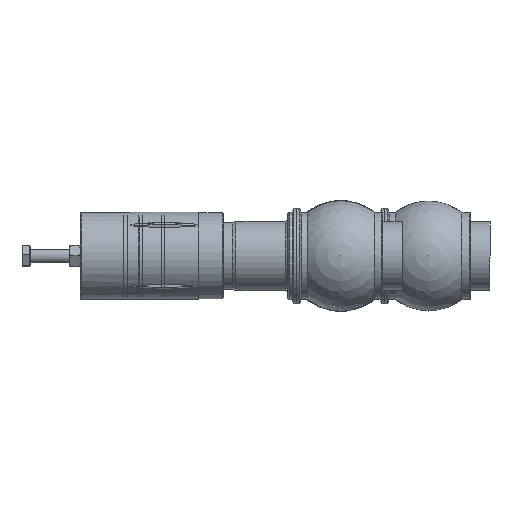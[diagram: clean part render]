
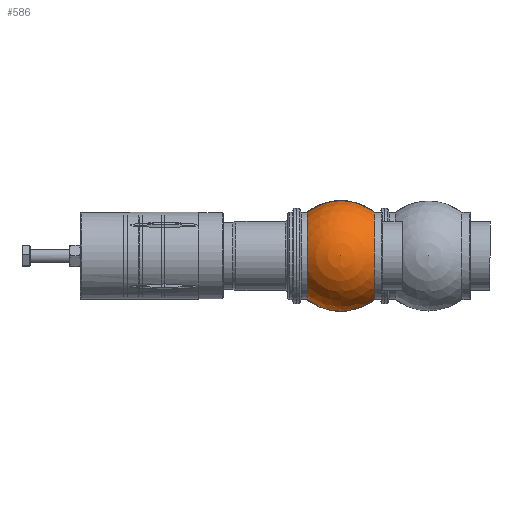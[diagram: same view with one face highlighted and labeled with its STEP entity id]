
A CAD part, left-side view. The second image highlights one B-rep face of the part: STEP entity #586.
In plain terms, the highlighted spherical face has radius 56.5 mm.
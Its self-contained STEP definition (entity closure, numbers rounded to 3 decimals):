
#465=CARTESIAN_POINT('',(2.321,28.835,44.94));
#466=VERTEX_POINT('',#465);
#467=CARTESIAN_POINT('',(-2.321,28.835,44.94));
#468=VERTEX_POINT('',#467);
#478=CARTESIAN_POINT('',(-2.321,28.835,44.94));
#479=CARTESIAN_POINT('',(-3.574,28.927,44.945));
#480=CARTESIAN_POINT('',(-4.841,29.095,44.955));
#481=CARTESIAN_POINT('',(-8.154,29.744,44.991));
#482=CARTESIAN_POINT('',(-10.193,30.356,45.025));
#483=CARTESIAN_POINT('',(-14.103,31.976,45.114));
#484=CARTESIAN_POINT('',(-15.977,32.984,45.17));
#485=CARTESIAN_POINT('',(-19.444,35.313,45.299));
#486=CARTESIAN_POINT('',(-21.035,36.635,45.372));
#487=CARTESIAN_POINT('',(-23.855,39.453,45.527));
#488=CARTESIAN_POINT('',(-25.179,41.046,45.614));
#489=CARTESIAN_POINT('',(-27.512,44.515,45.804));
#490=CARTESIAN_POINT('',(-28.522,46.391,45.906));
#491=CARTESIAN_POINT('',(-30.143,50.304,46.119));
#492=CARTESIAN_POINT('',(-30.755,52.343,46.229));
#493=CARTESIAN_POINT('',(-31.559,56.445,46.451));
#494=CARTESIAN_POINT('',(-31.75,58.506,46.562));
#495=CARTESIAN_POINT('',(-31.75,60.5,46.668));
#496=CARTESIAN_POINT('',(-31.75,62.493,46.775));
#497=CARTESIAN_POINT('',(-31.559,64.555,46.885));
#498=CARTESIAN_POINT('',(-30.756,68.656,47.103));
#499=CARTESIAN_POINT('',(-30.143,70.696,47.212));
#500=CARTESIAN_POINT('',(-28.522,74.608,47.418));
#501=CARTESIAN_POINT('',(-27.513,76.484,47.517));
#502=CARTESIAN_POINT('',(-25.179,79.953,47.699));
#503=CARTESIAN_POINT('',(-23.856,81.547,47.783));
#504=CARTESIAN_POINT('',(-21.036,84.365,47.93));
#505=CARTESIAN_POINT('',(-19.444,85.686,47.999));
#506=CARTESIAN_POINT('',(-15.978,88.016,48.12));
#507=CARTESIAN_POINT('',(-14.103,89.024,48.172));
#508=CARTESIAN_POINT('',(-10.193,90.644,48.256));
#509=CARTESIAN_POINT('',(-8.154,91.256,48.288));
#510=CARTESIAN_POINT('',(-4.054,92.059,48.329));
#511=CARTESIAN_POINT('',(-1.993,92.25,48.339));
#512=CARTESIAN_POINT('',(1.993,92.25,48.339));
#513=CARTESIAN_POINT('',(4.054,92.059,48.329));
#514=CARTESIAN_POINT('',(8.154,91.256,48.288));
#515=CARTESIAN_POINT('',(10.193,90.644,48.256));
#516=CARTESIAN_POINT('',(14.103,89.024,48.172));
#517=CARTESIAN_POINT('',(15.978,88.016,48.12));
#518=CARTESIAN_POINT('',(19.444,85.686,47.999));
#519=CARTESIAN_POINT('',(21.036,84.365,47.93));
#520=CARTESIAN_POINT('',(23.856,81.547,47.783));
#521=CARTESIAN_POINT('',(25.179,79.953,47.699));
#522=CARTESIAN_POINT('',(27.513,76.484,47.517));
#523=CARTESIAN_POINT('',(28.522,74.608,47.418));
#524=CARTESIAN_POINT('',(30.143,70.696,47.212));
#525=CARTESIAN_POINT('',(30.756,68.656,47.103));
#526=CARTESIAN_POINT('',(31.559,64.555,46.885));
#527=CARTESIAN_POINT('',(31.75,62.493,46.775));
#528=CARTESIAN_POINT('',(31.75,58.506,46.562));
#529=CARTESIAN_POINT('',(31.559,56.445,46.451));
#530=CARTESIAN_POINT('',(30.755,52.343,46.229));
#531=CARTESIAN_POINT('',(30.143,50.304,46.119));
#532=CARTESIAN_POINT('',(28.522,46.391,45.906));
#533=CARTESIAN_POINT('',(27.512,44.515,45.804));
#534=CARTESIAN_POINT('',(25.179,41.046,45.614));
#535=CARTESIAN_POINT('',(23.855,39.453,45.527));
#536=CARTESIAN_POINT('',(21.035,36.635,45.372));
#537=CARTESIAN_POINT('',(19.444,35.313,45.299));
#538=CARTESIAN_POINT('',(15.977,32.984,45.17));
#539=CARTESIAN_POINT('',(14.103,31.976,45.114));
#540=CARTESIAN_POINT('',(10.193,30.356,45.025));
#541=CARTESIAN_POINT('',(8.154,29.744,44.991));
#542=CARTESIAN_POINT('',(4.841,29.095,44.955));
#543=CARTESIAN_POINT('',(3.574,28.927,44.945));
#544=CARTESIAN_POINT('',(2.321,28.835,44.94));
#545=B_SPLINE_CURVE_WITH_KNOTS('',3,(#478,#479,#480,#481,#482,#483,#484,#485,#486,#487,#488,#489,#490,#491,#492,#493,#494,#495,#496,#497,#498,#499,#500,#501,#502,#503,#504,#505,#506,#507,#508,#509,#510,#511,#512,#513,#514,#515,#516,#517,#518,#519,#520,#521,#522,#523,#524,#525,#526,#527,#528,#529,#530,#531,#532,#533,#534,#535,#536,#537,#538,#539,#540,#541,#542,#543,#544),.UNSPECIFIED.,.F.,.U.,(4,2,2,2,2,2,2,2,3,2,2,2,2,2,2,2,2,2,2,2,2,2,2,2,2,2,2,2,2,2,2,2,4),(14.592,14.96,15.558,16.156,16.754,17.353,17.952,18.551,19.149,19.748,20.347,20.946,21.545,22.143,22.741,23.339,23.937,24.535,25.133,25.731,26.328,26.927,27.526,28.125,28.724,29.323,29.922,30.521,31.12,31.718,32.315,32.913,33.282),.UNSPECIFIED.);
#546=EDGE_CURVE('',#468,#466,#545,.T.);
#560=CARTESIAN_POINT('',(0.,63.,0.0));
#561=DIRECTION('',(0.0,0.0,1.0));
#562=DIRECTION('',(1.0,0.0,0.0));
#563=AXIS2_PLACEMENT_3D('',#560,#561,#562);
#564=SPHERICAL_SURFACE('',#563,56.5);
#565=CARTESIAN_POINT('',(-45.,97.165,0.0));
#566=VERTEX_POINT('',#565);
#567=CARTESIAN_POINT('',(0.0,97.165,0.0));
#568=DIRECTION('',(0.0,1.0,0.0));
#569=DIRECTION('',(-1.0,0.0,0.0));
#570=AXIS2_PLACEMENT_3D('',#567,#568,#569);
#571=CIRCLE('',#570,45.);
#572=EDGE_CURVE('',#566,#566,#571,.T.);
#573=ORIENTED_EDGE('',*,*,#572,.F.);
#574=EDGE_LOOP('',(#573));
#575=FACE_OUTER_BOUND('',#574,.T.);
#576=ORIENTED_EDGE('',*,*,#546,.T.);
#577=CARTESIAN_POINT('',(0.0,28.835,0.0));
#578=DIRECTION('',(0.0,1.0,0.0));
#579=DIRECTION('',(-1.0,0.0,0.0));
#580=AXIS2_PLACEMENT_3D('',#577,#578,#579);
#581=CIRCLE('',#580,45.);
#582=EDGE_CURVE('',#466,#468,#581,.T.);
#583=ORIENTED_EDGE('',*,*,#582,.T.);
#584=EDGE_LOOP('',(#576,#583));
#585=FACE_BOUND('',#584,.T.);
#586=ADVANCED_FACE('',(#575,#585),#564,.T.);
